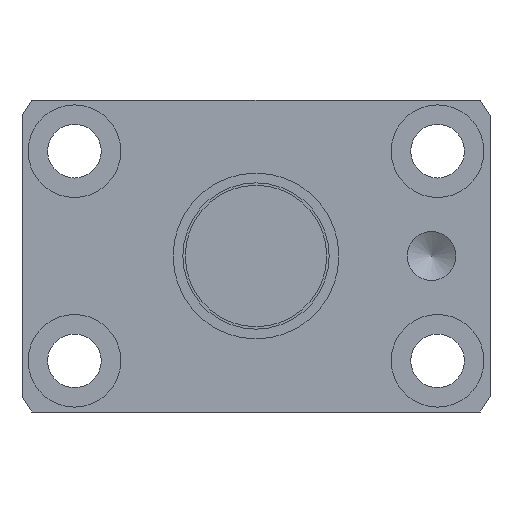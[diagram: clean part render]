
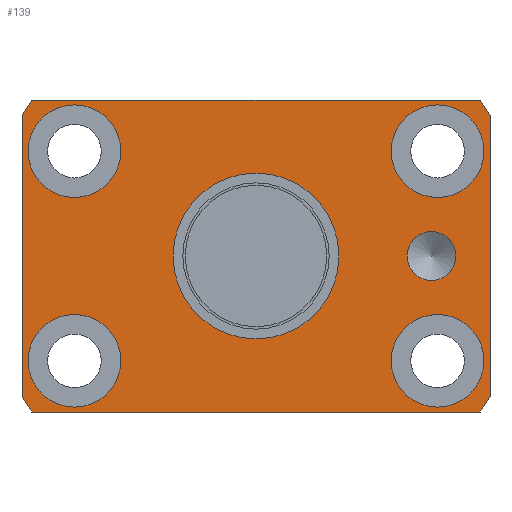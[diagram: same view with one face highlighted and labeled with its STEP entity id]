
A CAD part, left-side view. The second image highlights one B-rep face of the part: STEP entity #139.
In plain terms, the highlighted planar face has unit normal (-1, 0, 0).
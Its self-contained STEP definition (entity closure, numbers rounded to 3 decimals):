
#18 = FACE_BOUND ( 'NONE', #1453, .T. ) ;
#31 = ORIENTED_EDGE ( 'NONE', *, *, #860, .F. ) ;
#33 = DIRECTION ( 'NONE',  ( -1., 0., 0. ) ) ;
#88 = CARTESIAN_POINT ( 'NONE',  ( 0., 24., -16. ) ) ;
#108 = DIRECTION ( 'NONE',  ( 1., 0., 0. ) ) ;
#139 = ADVANCED_FACE ( 'NONE', ( #2546, #1270, #18, #2347, #2024, #1285, #2835 ), #740, .T. ) ;
#145 = EDGE_CURVE ( 'NONE', #2197, #2197, #2711, .T. ) ;
#146 = CARTESIAN_POINT ( 'NONE',  ( 0., 23.37, 10.75 ) ) ;
#161 = AXIS2_PLACEMENT_3D ( 'NONE', #2526, #2278, #2294 ) ;
#174 = VERTEX_POINT ( 'NONE', #3346 ) ;
#188 = ORIENTED_EDGE ( 'NONE', *, *, #688, .F. ) ;
#203 = DIRECTION ( 'NONE',  ( 1., 0., 0. ) ) ;
#204 = EDGE_CURVE ( 'NONE', #3015, #1921, #212, .T. ) ;
#212 = CIRCLE ( 'NONE', #161, 28. ) ;
#250 = DIRECTION ( 'NONE',  ( 0., 1., 0. ) ) ;
#372 = EDGE_CURVE ( 'NONE', #1921, #1823, #2874, .T. ) ;
#396 = AXIS2_PLACEMENT_3D ( 'NONE', #3161, #882, #1599 ) ;
#411 = CARTESIAN_POINT ( 'NONE',  ( 0., -13.87, 10.75 ) ) ;
#421 = DIRECTION ( 'NONE',  ( 0., 1., 0. ) ) ;
#452 = DIRECTION ( 'NONE',  ( 0., 0., 1. ) ) ;
#462 = DIRECTION ( 'NONE',  ( 0., 1., 0. ) ) ;
#554 = ORIENTED_EDGE ( 'NONE', *, *, #2770, .F. ) ;
#593 = AXIS2_PLACEMENT_3D ( 'NONE', #2330, #764, #462 ) ;
#607 = CIRCLE ( 'NONE', #2117, 4.75 ) ;
#619 = ORIENTED_EDGE ( 'NONE', *, *, #1768, .F. ) ;
#666 = EDGE_CURVE ( 'NONE', #174, #1277, #2866, .T. ) ;
#688 = EDGE_CURVE ( 'NONE', #3042, #1529, #697, .T. ) ;
#697 = CIRCLE ( 'NONE', #2592, 28. ) ;
#740 = PLANE ( 'NONE',  #2385 ) ;
#764 = DIRECTION ( 'NONE',  ( 1., 0., 0. ) ) ;
#767 = CARTESIAN_POINT ( 'NONE',  ( 0., 22.978, -16. ) ) ;
#805 = VECTOR ( 'NONE', #1421, 1000. ) ;
#860 = EDGE_CURVE ( 'NONE', #1335, #3042, #2468, .T. ) ;
#880 = ORIENTED_EDGE ( 'NONE', *, *, #3149, .T. ) ;
#882 = DIRECTION ( 'NONE',  ( 1., 0., 0. ) ) ;
#921 = EDGE_LOOP ( 'NONE', ( #2774 ) ) ;
#1013 = CIRCLE ( 'NONE', #3025, 4.75 ) ;
#1033 = ORIENTED_EDGE ( 'NONE', *, *, #2177, .F. ) ;
#1155 = CARTESIAN_POINT ( 'NONE',  ( 0., 8.5, 0. ) ) ;
#1166 = CARTESIAN_POINT ( 'NONE',  ( 0., -13.87, -10.75 ) ) ;
#1247 = CIRCLE ( 'NONE', #396, 4.75 ) ;
#1270 = FACE_BOUND ( 'NONE', #921, .T. ) ;
#1277 = VERTEX_POINT ( 'NONE', #2628 ) ;
#1285 = FACE_OUTER_BOUND ( 'NONE', #2796, .T. ) ;
#1286 = ORIENTED_EDGE ( 'NONE', *, *, #1521, .F. ) ;
#1335 = VERTEX_POINT ( 'NONE', #2669 ) ;
#1359 = CARTESIAN_POINT ( 'NONE',  ( 0., 24., -14.422 ) ) ;
#1372 = CARTESIAN_POINT ( 'NONE',  ( 0., 0., 0. ) ) ;
#1410 = CIRCLE ( 'NONE', #2491, 4.75 ) ;
#1421 = DIRECTION ( 'NONE',  ( 0., 0., -1. ) ) ;
#1446 = CARTESIAN_POINT ( 'NONE',  ( 0., -18.62, 10.75 ) ) ;
#1451 = LINE ( 'NONE', #2234, #805 ) ;
#1453 = EDGE_LOOP ( 'NONE', ( #880 ) ) ;
#1485 = EDGE_LOOP ( 'NONE', ( #1520 ) ) ;
#1490 = DIRECTION ( 'NONE',  ( 0., 1., 0. ) ) ;
#1493 = CARTESIAN_POINT ( 'NONE',  ( 0., -24., 14.422 ) ) ;
#1507 = DIRECTION ( 'NONE',  ( 0., 0., 1. ) ) ;
#1516 = CARTESIAN_POINT ( 'NONE',  ( 0., -18., 0. ) ) ;
#1520 = ORIENTED_EDGE ( 'NONE', *, *, #2731, .T. ) ;
#1521 = EDGE_CURVE ( 'NONE', #2707, #2707, #2051, .T. ) ;
#1529 = VERTEX_POINT ( 'NONE', #1493 ) ;
#1562 = AXIS2_PLACEMENT_3D ( 'NONE', #2830, #3085, #3137 ) ;
#1586 = DIRECTION ( 'NONE',  ( 0., 0., 1. ) ) ;
#1599 = DIRECTION ( 'NONE',  ( 0., 1., 0. ) ) ;
#1623 = VECTOR ( 'NONE', #250, 1000. ) ;
#1664 = ORIENTED_EDGE ( 'NONE', *, *, #372, .F. ) ;
#1685 = ORIENTED_EDGE ( 'NONE', *, *, #204, .F. ) ;
#1756 = EDGE_LOOP ( 'NONE', ( #1286 ) ) ;
#1768 = EDGE_CURVE ( 'NONE', #1823, #1335, #3023, .T. ) ;
#1786 = CARTESIAN_POINT ( 'NONE',  ( 0., 12.25, 0. ) ) ;
#1816 = CARTESIAN_POINT ( 'NONE',  ( 0., 24., 14.422 ) ) ;
#1823 = VERTEX_POINT ( 'NONE', #1816 ) ;
#1876 = DIRECTION ( 'NONE',  ( 1., 0., 0. ) ) ;
#1921 = VERTEX_POINT ( 'NONE', #1359 ) ;
#1926 = DIRECTION ( 'NONE',  ( 0., -1., 0. ) ) ;
#1934 = EDGE_LOOP ( 'NONE', ( #3202 ) ) ;
#1951 = AXIS2_PLACEMENT_3D ( 'NONE', #3182, #1876, #2913 ) ;
#2008 = EDGE_CURVE ( 'NONE', #2466, #2466, #1013, .T. ) ;
#2024 = FACE_BOUND ( 'NONE', #1485, .T. ) ;
#2051 = CIRCLE ( 'NONE', #2213, 2.5 ) ;
#2111 = CARTESIAN_POINT ( 'NONE',  ( 0., 23.37, -10.75 ) ) ;
#2117 = AXIS2_PLACEMENT_3D ( 'NONE', #1446, #3007, #1490 ) ;
#2147 = ORIENTED_EDGE ( 'NONE', *, *, #666, .F. ) ;
#2177 = EDGE_CURVE ( 'NONE', #1277, #3015, #3098, .T. ) ;
#2197 = VERTEX_POINT ( 'NONE', #1155 ) ;
#2213 = AXIS2_PLACEMENT_3D ( 'NONE', #1516, #2801, #452 ) ;
#2234 = CARTESIAN_POINT ( 'NONE',  ( 0., -24., 16. ) ) ;
#2244 = CARTESIAN_POINT ( 'NONE',  ( 0., -22.978, 16. ) ) ;
#2278 = DIRECTION ( 'NONE',  ( 1., 0., 0. ) ) ;
#2294 = DIRECTION ( 'NONE',  ( 0., 1., 0. ) ) ;
#2326 = VECTOR ( 'NONE', #1926, 1000. ) ;
#2330 = CARTESIAN_POINT ( 'NONE',  ( 0., 0., 0. ) ) ;
#2347 = FACE_BOUND ( 'NONE', #1934, .T. ) ;
#2378 = VECTOR ( 'NONE', #1586, 1000. ) ;
#2385 = AXIS2_PLACEMENT_3D ( 'NONE', #1786, #33, #1507 ) ;
#2452 = CARTESIAN_POINT ( 'NONE',  ( 0., 18.62, 10.75 ) ) ;
#2466 = VERTEX_POINT ( 'NONE', #146 ) ;
#2468 = LINE ( 'NONE', #2751, #2326 ) ;
#2474 = DIRECTION ( 'NONE',  ( 1., 0., 0. ) ) ;
#2487 = DIRECTION ( 'NONE',  ( 0., 1., 0. ) ) ;
#2491 = AXIS2_PLACEMENT_3D ( 'NONE', #3206, #108, #2487 ) ;
#2506 = EDGE_LOOP ( 'NONE', ( #3269 ) ) ;
#2526 = CARTESIAN_POINT ( 'NONE',  ( 0., 0., 0. ) ) ;
#2546 = FACE_BOUND ( 'NONE', #1756, .T. ) ;
#2568 = CARTESIAN_POINT ( 'NONE',  ( 0., -24., -16. ) ) ;
#2592 = AXIS2_PLACEMENT_3D ( 'NONE', #1372, #203, #3087 ) ;
#2628 = CARTESIAN_POINT ( 'NONE',  ( 0., -22.978, -16. ) ) ;
#2638 = VERTEX_POINT ( 'NONE', #2111 ) ;
#2669 = CARTESIAN_POINT ( 'NONE',  ( 0., 22.978, 16. ) ) ;
#2707 = VERTEX_POINT ( 'NONE', #3229 ) ;
#2711 = CIRCLE ( 'NONE', #593, 8.5 ) ;
#2724 = VERTEX_POINT ( 'NONE', #411 ) ;
#2731 = EDGE_CURVE ( 'NONE', #3002, #3002, #1410, .T. ) ;
#2751 = CARTESIAN_POINT ( 'NONE',  ( 0., 24., 16. ) ) ;
#2770 = EDGE_CURVE ( 'NONE', #1529, #174, #1451, .T. ) ;
#2774 = ORIENTED_EDGE ( 'NONE', *, *, #3264, .T. ) ;
#2796 = EDGE_LOOP ( 'NONE', ( #1033, #2147, #554, #188, #31, #619, #1664, #1685 ) ) ;
#2801 = DIRECTION ( 'NONE',  ( -1., 0., 0. ) ) ;
#2830 = CARTESIAN_POINT ( 'NONE',  ( 0., 0., 0. ) ) ;
#2835 = FACE_BOUND ( 'NONE', #2506, .T. ) ;
#2866 = CIRCLE ( 'NONE', #1951, 28. ) ;
#2874 = LINE ( 'NONE', #88, #2378 ) ;
#2913 = DIRECTION ( 'NONE',  ( 0., 1., 0. ) ) ;
#3002 = VERTEX_POINT ( 'NONE', #1166 ) ;
#3007 = DIRECTION ( 'NONE',  ( 1., 0., 0. ) ) ;
#3015 = VERTEX_POINT ( 'NONE', #767 ) ;
#3023 = CIRCLE ( 'NONE', #1562, 28. ) ;
#3025 = AXIS2_PLACEMENT_3D ( 'NONE', #2452, #2474, #421 ) ;
#3042 = VERTEX_POINT ( 'NONE', #2244 ) ;
#3085 = DIRECTION ( 'NONE',  ( 1., 0., 0. ) ) ;
#3087 = DIRECTION ( 'NONE',  ( 0., 1., 0. ) ) ;
#3098 = LINE ( 'NONE', #2568, #1623 ) ;
#3137 = DIRECTION ( 'NONE',  ( 0., 1., 0. ) ) ;
#3149 = EDGE_CURVE ( 'NONE', #2724, #2724, #607, .T. ) ;
#3161 = CARTESIAN_POINT ( 'NONE',  ( 0., 18.62, -10.75 ) ) ;
#3182 = CARTESIAN_POINT ( 'NONE',  ( 0., 0., 0. ) ) ;
#3202 = ORIENTED_EDGE ( 'NONE', *, *, #2008, .T. ) ;
#3206 = CARTESIAN_POINT ( 'NONE',  ( 0., -18.62, -10.75 ) ) ;
#3229 = CARTESIAN_POINT ( 'NONE',  ( 0., -18., 2.5 ) ) ;
#3264 = EDGE_CURVE ( 'NONE', #2638, #2638, #1247, .T. ) ;
#3269 = ORIENTED_EDGE ( 'NONE', *, *, #145, .T. ) ;
#3346 = CARTESIAN_POINT ( 'NONE',  ( 0., -24., -14.422 ) ) ;
